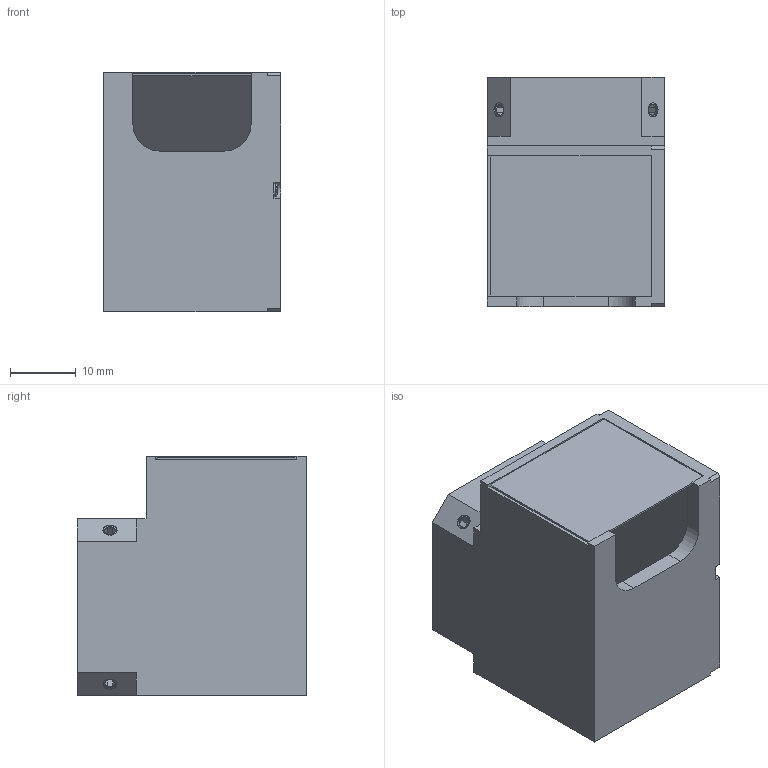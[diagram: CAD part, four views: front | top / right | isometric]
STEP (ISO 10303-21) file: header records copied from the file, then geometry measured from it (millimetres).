
FILE_DESCRIPTION (( 'STEP AP214' ), '1' );
FILE_NAME ('MML-PP25.STEP', '2026-02-24T01:52:55', ( '' ), ( '' ), 'SwSTEP 2.0', 'SolidWorks 2025', '' );
FILE_SCHEMA (( 'AUTOMOTIVE_DESIGN' ));
Length unit declared in the file: millimetre
Products named in the file (1): MML-PP25
Bounding box: 27 x 35 x 36.5 mm (x, y, z)
Volume: 16487.6 mm3; surface area: 9677.8 mm2
Topology: 1 solids, 6 shells, 314 faces, 850 edges, 550 vertices
Faces by surface type: plane 192, cone 58, cylinder 46, torus 12, sphere 6
Entity records: 10168 total; most frequent: CARTESIAN_POINT 2303, ORIENTED_EDGE 1680, DIRECTION 1611, EDGE_CURVE 840, AXIS2_PLACEMENT_3D 582, VERTEX_POINT 550, VECTOR 447, LINE 447
